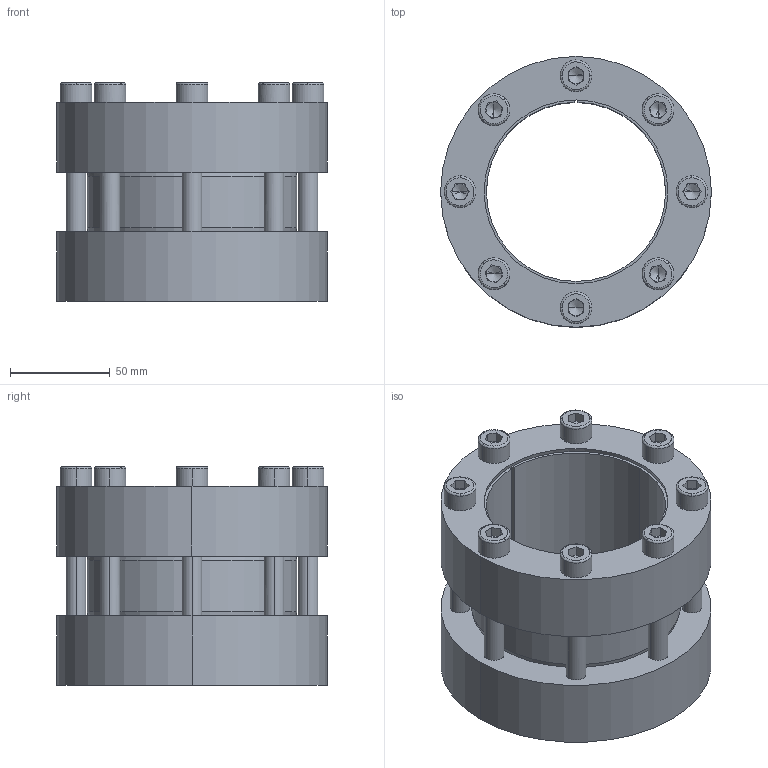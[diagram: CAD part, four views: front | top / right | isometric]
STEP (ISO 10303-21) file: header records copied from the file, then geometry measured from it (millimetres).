
FILE_DESCRIPTION (( 'STEP AP214' ), '1' );
FILE_NAME ('CONEX-M-90x136.STEP', '2016-04-29T12:20:35', ( '' ), ( '' ), 'SwSTEP 2.0', 'SolidWorks 2013', '' );
FILE_SCHEMA (( 'AUTOMOTIVE_DESIGN' ));
Length unit declared in the file: millimetre
Products named in the file (1): CONEX-M-90x136
Bounding box: 136 x 136 x 109.99 mm (x, y, z)
Volume: 657518 mm3; surface area: 131628.5 mm2
Topology: 1 solids, 1 shells, 275 faces, 666 edges, 409 vertices
Faces by surface type: plane 128, cylinder 74, cone 41, bspline 32
Entity records: 12582 total; most frequent: CARTESIAN_POINT 3103, DIRECTION 1397, ORIENTED_EDGE 1300, EDGE_CURVE 650, AXIS2_PLACEMENT_3D 543, VERTEX_POINT 409, EDGE_LOOP 327, LINE 311
